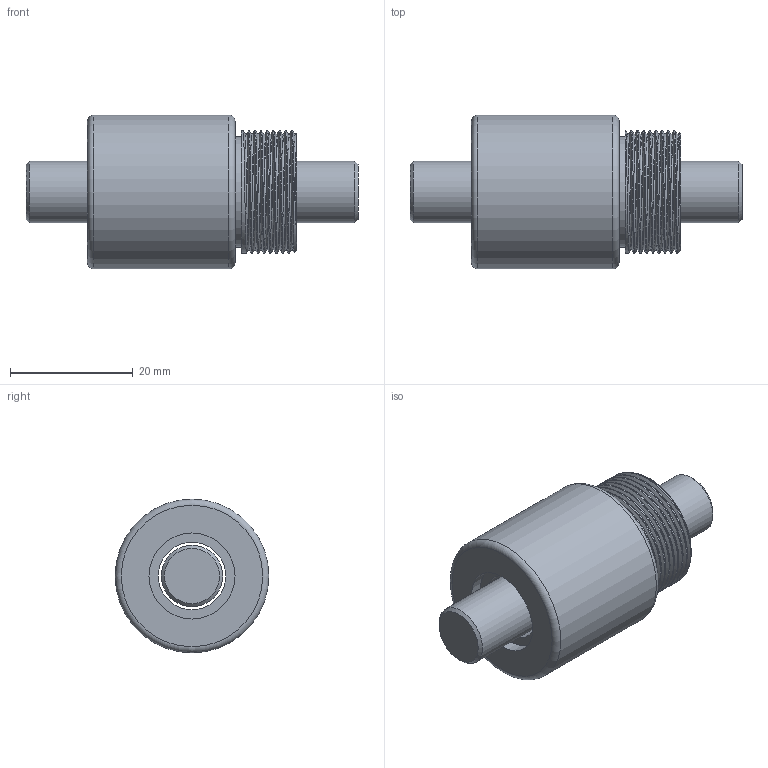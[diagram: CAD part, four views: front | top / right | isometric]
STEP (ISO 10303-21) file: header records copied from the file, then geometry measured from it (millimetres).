
FILE_DESCRIPTION (( 'STEP AP203' ), '1' );
FILE_NAME ('BSH01004-2.5.STEP', '2023-08-16T06:28:18', ( '' ), ( '' ), 'SwSTEP 2.0', 'SolidWorks 2022', '' );
FILE_SCHEMA (( 'CONFIG_CONTROL_DESIGN' ));
Length unit declared in the file: millimetre
Products named in the file (1): BSH01004-2.5
Bounding box: 54 x 25 x 25 mm (x, y, z)
Volume: 15622.2 mm3; surface area: 6650 mm2
Topology: 2 solids, 2 shells, 22 faces, 39 edges, 24 vertices
Faces by surface type: plane 8, cylinder 7, cone 3, bspline 2, torus 2
Full cylindrical faces by diameter (mm): 10 x1, 11 x1, 14 x1, 18 x1, 25 x1
Entity records: 2334 total; most frequent: CARTESIAN_POINT 1868, DIRECTION 81, ORIENTED_EDGE 60, AXIS2_PLACEMENT_3D 39, EDGE_LOOP 36, EDGE_CURVE 30, FACE_OUTER_BOUND 29, VERTEX_POINT 24
